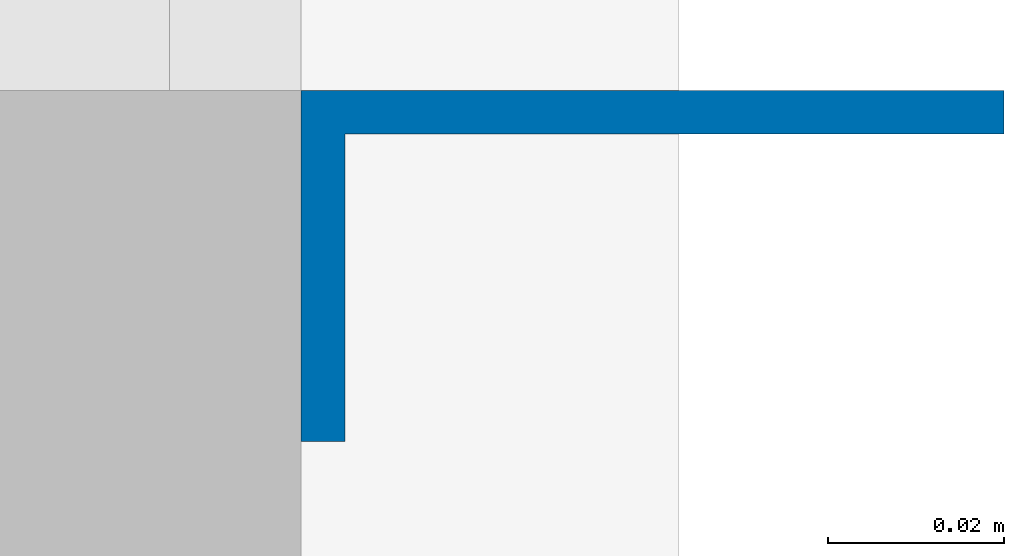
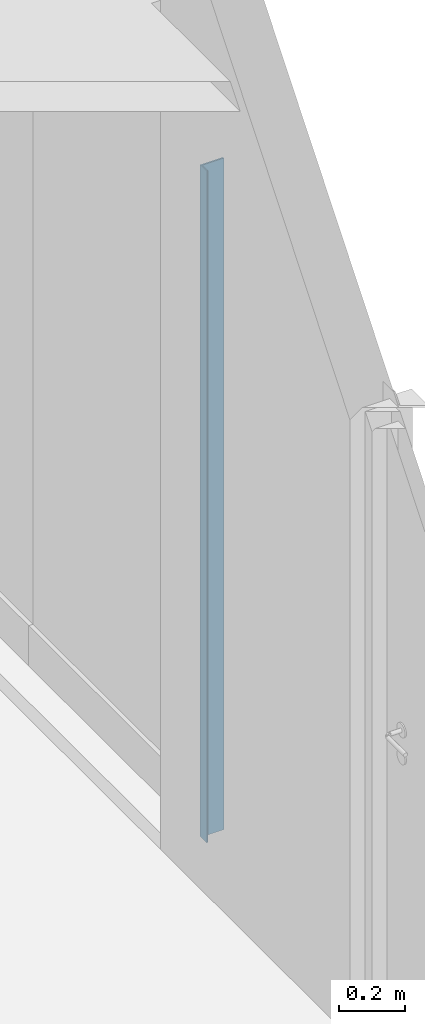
# One storey, part 6 of 12: 1 wall.
"""IFC2X3 building model written with IfcOpenShell, lengths in millimetres."""

from ifc_helpers import new_model, entity, si_unit, converted_unit, derived_unit, direction, frame, origin_with_axes, place, context, subcontext, project, spatial, polyline, outline, extrude, type_object, element, save


model = new_model("IFC2X3")

# Units and contexts
model_context = context("Model", 3, precision=0.01, world=frame((0.0, 4.29681676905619e-09, 0.0)), true_north=direction((6.12323399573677e-17, 1.0)))
plan_context = context("Plan", 3, precision=0.01, world=frame((0.0, 4.29681676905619e-09, 0.0)), true_north=direction((6.12323399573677e-17, 1.0)))
body_context = subcontext(model_context, "Body", "Model", "MODEL_VIEW")
ifc_project = project(units=[converted_unit("PLANEANGLEUNIT", "DEGREE", entity("IfcPositiveLengthMeasure", 0.0174532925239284), si_unit("PLANEANGLEUNIT", "RADIAN"), dimensions=[0, 0, 0, 0, 0, 0, 0]), si_unit("AREAUNIT", "SQUARE_METRE"), si_unit("LENGTHUNIT", "METRE", prefix="MILLI"), si_unit("MASSUNIT", "GRAM", prefix="KILO"), si_unit("POWERUNIT", "WATT"), si_unit("PRESSUREUNIT", "PASCAL", prefix="KILO"), si_unit("FORCEUNIT", "NEWTON", prefix="KILO"), si_unit("ELECTRICVOLTAGEUNIT", "VOLT"), si_unit("ELECTRICCURRENTUNIT", "AMPERE"), si_unit("THERMODYNAMICTEMPERATUREUNIT", "DEGREE_CELSIUS"), si_unit("TIMEUNIT", "SECOND"), si_unit("VOLUMEUNIT", "CUBIC_METRE"), derived_unit("LINEARVELOCITYUNIT", [(si_unit("LENGTHUNIT", "METRE"), 1), (si_unit("TIMEUNIT", "SECOND"), -1)]), derived_unit("VOLUMETRICFLOWRATEUNIT", [(si_unit("VOLUMEUNIT", "CUBIC_METRE"), 1), (si_unit("TIMEUNIT", "SECOND"), -1)]), derived_unit("THERMALTRANSMITTANCEUNIT", [(si_unit("POWERUNIT", "WATT"), 1), (si_unit("THERMODYNAMICTEMPERATUREUNIT", "KELVIN"), -1), (si_unit("AREAUNIT", "SQUARE_METRE"), -1)]), derived_unit("SOUNDPRESSUREUNIT", [(si_unit("PRESSUREUNIT", "PASCAL"), 1)])], contexts=[model_context, plan_context])

# Site, building, storey
site_placement = place(None, origin_with_axes())
site = spatial("IfcSite", under=ifc_project, at=site_placement, Name="ENGM", CompositionType="ELEMENT")
building_placement = place(site_placement, origin_with_axes())
building = spatial("IfcBuilding", under=site, at=building_placement, Name="TH", CompositionType="ELEMENT")
storey_placement = place(building_placement, frame((0.0, 0.0, 210200.0), z_axis=(0.0, 0.0, 1.0), x_axis=(1.0, 0.0, 0.0)))
storey = spatial("IfcBuildingStorey", under=building, at=storey_placement, Name="Nivå F - 0,7 m", CompositionType="ELEMENT", Elevation=210200.0)

# Wall
wall_type = type_object("IfcWallType", Name="A270 KL-S04:A270 - L-profil", PredefinedType="NOTDEFINED")
wall_placement = place(storey_placement, frame((1130494.79984185, 466359.999999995, -70.0), z_axis=(0.0, 0.0, 1.0), x_axis=(0.0, 1.0, 0.0)))
element("IfcWall", 1, at=wall_placement, inside=storey, type_object=wall_type, Name="A270 KL-S04:A270 - L-profil", ObjectType="A270 KL-S04:A270 - L-profil", context=body_context, shape_type="SweptSolid", body=[
    extrude(outline(polyline([(-28.3333333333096, -25.0), (-23.3333333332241, -25.0), (-23.3333333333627, 10.0), (51.6666666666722, 10.0), (51.6666666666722, 15.0), (-28.3333333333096, 15.0), (-28.3333333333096, -25.0)])), frame((25.0, -28.3333333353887, 0.0), z_axis=(0.0, 0.0, 1.0), x_axis=(0.0, -1.0, 0.0)), (0.0, 0.0, 1.0), 2499.99999999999),
])

save(model, "model.ifc")
